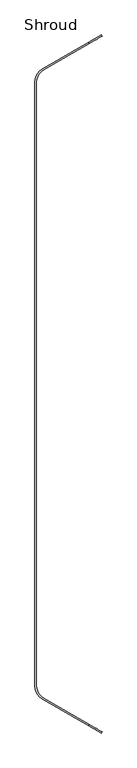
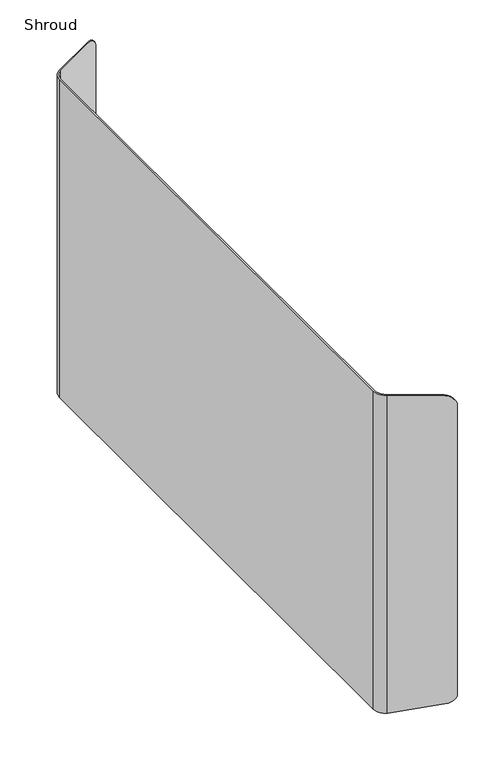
"""IFC4 building model written with IfcOpenShell, lengths in millimetres: furniture geometry, Steelcase Turnstone - Bivi - Accessories - Media Support System - Shroud : Shroud."""

from ifc_helpers import new_model, si_unit, frame, origin, place, context, project, spatial, polyline, circle_curve, ellipse_curve, source, transform, mapped, element, save
from ifc_brep_helpers import plane_surface, cylinder_surface, revolved_surface, advanced_brep


def shroud_0d320042(model_context):
    return source(origin(), model_context, "Body", "AdvancedBrep", [
        advanced_brep(
        [(12.7801827, 755.3019086, 1878.4279785), (0.0801827, 733.3048634, 1878.4279785), (0.0801827, -266.7068542, 1878.4279785), (12.7801827, -288.7038994, 1878.4279785), (89.1428456, -332.7919034, 1878.4279785), (89.1428456, -330.1525198, 1878.4279785), (14.443746, -287.0249745, 1878.4279785), (2.3471949, -266.0731334, 1878.4279785), (2.3471949, 732.6711427, 1878.4279785), (14.443746, 753.6229837, 1878.4279785), (89.1428456, 796.750529, 1878.4279785), (89.1428456, 799.3899126, 1878.4279785), (14.443746, 753.6229837, 1259.4279709), (2.3471949, 732.6711427, 1259.4279709), (2.3471949, -266.0731334, 1259.4279709), (14.443746, -287.0249745, 1259.4279709), (14.443746, -289.6643582, 1259.4279709), (12.7801827, -288.7038994, 1259.4279709), (0.0801827, -266.7068542, 1259.4279709), (0.0801827, 733.3048634, 1259.4279709), (12.7801827, 755.3019086, 1259.4279709), (14.443746, 756.2623674, 1259.4279709), (93.0215433, 798.9898961, 1277.5690848), (111.2120616, 809.4921968, 1297.5641356), (111.2120616, 809.4921968, 1303.8340351), (111.2120616, 809.4921968, 1856.3587625), (110.0691749, 811.4717345, 1292.8056002), (110.0691749, 811.4717345, 1863.3686865), (93.0215433, 801.6292798, 1277.5690848), (93.0215433, -335.0312706, 1277.5690848), (110.0691749, -344.8737253, 1292.8056002), (110.0691749, -344.8737253, 1863.3686865), (111.2120616, -342.8941876, 1297.5641356), (111.2120616, -342.8941876, 1303.8340351), (111.2120616, -342.8941876, 1856.3587625), (93.0215433, -332.3918869, 1277.5690848)],
        [
            (0, 1, circle_curve(frame((25.4801827, 733.3048634, 1878.4279785), z_axis=(0.0, 0.0, 1.0), x_axis=(1.0, 0.0, 0.0)), 25.4)),
            (1, 2),
            (2, 3, circle_curve(frame((25.4801827, -266.7068542, 1878.4279785), z_axis=(0.0, 0.0, 1.0), x_axis=(1.0, 0.0, 0.0)), 25.4)),
            (3, 4),
            (4, 5),
            (5, 6),
            (6, 7, circle_curve(frame((26.5402971, -266.0731334, 1878.4279785), z_axis=(0.0, 0.0, -1.0), x_axis=(1.0, 0.0, 0.0)), 24.1931022)),
            (7, 8),
            (8, 9, circle_curve(frame((26.5402971, 732.6711427, 1878.4279785), z_axis=(0.0, 0.0, -1.0), x_axis=(1.0, 0.0, 0.0)), 24.1931022)),
            (9, 10),
            (10, 11),
            (11, 0),
            (12, 13, circle_curve(frame((26.5402971, 732.6711427, 1259.4279709), z_axis=(0.0, 0.0, 1.0), x_axis=(1.0, 0.0, 0.0)), 24.1931022)),
            (13, 14),
            (14, 15, circle_curve(frame((26.5402971, -266.0731334, 1259.4279709), z_axis=(0.0, 0.0, 1.0), x_axis=(1.0, 0.0, 0.0)), 24.1931022)),
            (15, 16),
            (16, 17),
            (17, 18, circle_curve(frame((25.4801827, -266.7068542, 1259.4279709), z_axis=(0.0, 0.0, -1.0), x_axis=(1.0, 0.0, 0.0)), 25.4)),
            (18, 19),
            (19, 20, circle_curve(frame((25.4801827, 733.3048634, 1259.4279709), z_axis=(0.0, 0.0, -1.0), x_axis=(1.0, 0.0, 0.0)), 25.4)),
            (20, 21),
            (21, 12),
            (9, 12),
            (12, 22),
            (22, 23, ellipse_curve(frame((87.6815619, 795.9068564, 1300.6990853), z_axis=(0.4999999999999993, -0.8660254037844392, 0.0), x_axis=(-0.8660254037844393, -0.499999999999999, 0.0)), 27.4107601, 23.7384146)),
            (23, 24),
            (24, 25),
            (25, 10, ellipse_curve(frame((89.1428456, 796.750529, 1856.3587625), z_axis=(0.4999999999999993, -0.8660254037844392, 0.0), x_axis=(-0.8660254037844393, -0.499999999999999, 0.0)), 25.4833356, 22.069216)),
            (23, 26, ellipse_curve(frame((87.6815619, 850.2482178, 1300.6990853), z_axis=(0.8660254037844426, 0.4999999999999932, 0.0), x_axis=(0.4999999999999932, -0.8660254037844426, 0.0)), 47.4768291, 23.7384146)),
            (26, 27),
            (27, 25, ellipse_curve(frame((89.1428456, 847.7172001, 1856.3587625), z_axis=(0.8660254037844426, 0.4999999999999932, 0.0), x_axis=(0.4999999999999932, -0.8660254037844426, 0.0)), 44.138432, 22.069216)),
            (20, 0),
            (11, 27, ellipse_curve(frame((89.1428456, 799.3899126, 1856.3587625), z_axis=(-0.4999999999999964, 0.8660254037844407, 0.0), x_axis=(-0.8660254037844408, -0.49999999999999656, 0.0)), 25.4833356, 22.069216)),
            (26, 28, ellipse_curve(frame((87.6815619, 798.5462401, 1300.6990853), z_axis=(-0.4999999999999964, 0.8660254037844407, 0.0), x_axis=(-0.8660254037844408, -0.49999999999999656, 0.0)), 27.4107601, 23.7384146)),
            (28, 21),
            (19, 1),
            (18, 2),
            (17, 3),
            (16, 29),
            (29, 30, ellipse_curve(frame((87.6815619, -331.9482309, 1300.6990853), z_axis=(-0.4999999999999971, -0.8660254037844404, 0.0), x_axis=(0.8660254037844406, -0.499999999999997, 0.0)), 27.4107601, 23.7384146)),
            (30, 31),
            (31, 4, ellipse_curve(frame((89.1428456, -332.7919034, 1856.3587625), z_axis=(-0.4999999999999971, -0.8660254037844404, 0.0), x_axis=(0.8660254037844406, -0.499999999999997, 0.0)), 25.4833356, 22.069216)),
            (30, 32, ellipse_curve(frame((87.6815619, -383.6502086, 1300.6990853), z_axis=(0.8660254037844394, -0.4999999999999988, 0.0), x_axis=(-0.4999999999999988, -0.8660254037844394, 0.0)), 47.4768291, 23.7384146)),
            (32, 33),
            (33, 34),
            (34, 31, ellipse_curve(frame((89.1428456, -381.1191909, 1856.3587625), z_axis=(0.8660254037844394, -0.4999999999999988, 0.0), x_axis=(-0.4999999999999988, -0.8660254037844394, 0.0)), 44.138432, 22.069216)),
            (15, 6),
            (5, 34, ellipse_curve(frame((89.1428456, -330.1525198, 1856.3587625), z_axis=(0.49999999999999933, 0.866025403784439, 0.0), x_axis=(0.866025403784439, -0.49999999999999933, 0.0)), 25.4833356, 22.069216)),
            (32, 35, ellipse_curve(frame((87.6815619, -329.3088472, 1300.6990853), z_axis=(0.49999999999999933, 0.866025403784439, 0.0), x_axis=(0.866025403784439, -0.49999999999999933, 0.0)), 27.4107601, 23.7384146)),
            (35, 15),
            (14, 7),
            (13, 8),
            (22, 28),
            (29, 35),
        ],
        [
            plane_surface(frame((111.2120616, 809.4921968, 1878.4279785), z_axis=(0.0, 0.0, 1.0000000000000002), x_axis=(0.8660254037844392, 0.4999999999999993, 0.0))),
            plane_surface(frame((111.2120616, 809.4921968, 1259.4279709), z_axis=(0.0, 0.0, -1.0000000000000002), x_axis=(-0.8660254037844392, -0.4999999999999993, 0.0))),
            plane_surface(frame((14.443746, 753.6229837, 1878.4279785), z_axis=(0.4999999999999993, -0.8660254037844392, 0.0), x_axis=(0.0, 0.0, -1.0))),
            plane_surface(frame((111.2120616, 809.4921968, 1878.4279785), z_axis=(0.8660254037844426, 0.4999999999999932, 0.0), x_axis=(0.0, 0.0, -1.0))),
            plane_surface(frame((110.0691749, 811.4717345, 1878.4279785), z_axis=(-0.4999999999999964, 0.8660254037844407, 0.0), x_axis=(0.0, 0.0, -1.0))),
            cylinder_surface(frame((25.4801827, 733.3048634, 1259.4279709), z_axis=(0.0, 0.0, 1.0), x_axis=(1.0, 0.0, 0.0)), 25.4),
            plane_surface(frame((0.0801827, 733.3048634, 1878.4279785), z_axis=(-1.0, 0.0, 0.0), x_axis=(0.0, 0.0, -1.0))),
            cylinder_surface(frame((25.4801827, -266.7068542, 1259.4279709), z_axis=(0.0, 0.0, 1.0), x_axis=(1.0, 0.0, 0.0)), 25.4),
            plane_surface(frame((12.7801827, -288.7038994, 1878.4279785), z_axis=(-0.4999999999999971, -0.8660254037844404, 0.0), x_axis=(0.0, 0.0, -1.0))),
            plane_surface(frame((110.0691749, -344.8737253, 1878.4279785), z_axis=(0.8660254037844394, -0.4999999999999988, 0.0), x_axis=(0.0, 0.0, -1.0))),
            plane_surface(frame((111.2120616, -342.8941876, 1878.4279785), z_axis=(0.49999999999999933, 0.866025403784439, 0.0), x_axis=(0.0, 0.0, -1.0))),
            revolved_surface(polyline([(50.7333993, -266.0731334, 1259.4279709), (50.7333993, -266.0731334, 1878.4279785)]), (26.5402971, -266.0731334, 1259.4279709), (0.0, 0.0, -1.0)),
            plane_surface(frame((2.3471949, -266.0731334, 1878.4279785), z_axis=(1.0, 0.0, 0.0), x_axis=(0.0, 0.0, -1.0))),
            revolved_surface(polyline([(50.7333993, 732.6711427, 1259.4279709), (50.7333993, 732.6711427, 1878.4279785)]), (26.5402971, 732.6711427, 1259.4279709), (0.0, 0.0, -1.0)),
            cylinder_surface(frame((89.1428456, -981.3877882, 1856.3587625), z_axis=(0.0, -1.0, 0.0), x_axis=(1.0, 0.0, 0.0)), 22.069216),
            cylinder_surface(frame((87.6815619, 233.2990046, 1300.6990853), z_axis=(0.0, -1.0, 0.0), x_axis=(1.0, 0.0, 0.0)), 23.7384146),
            plane_surface(frame((14.443746, 1259.3511224, 1259.4279709), z_axis=(0.2249510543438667, 0.0, -0.9743700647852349), x_axis=(0.0, -1.0, 0.0))),
        ],
        [
            (0, [[1, 2, 3, 4, 5, 6, 7, 8, 9, 10, 11, 12]]),
            (1, [[13, 14, 15, 16, 17, 18, 19, 20, 21, 22]]),
            (2, [[23, 24, 25, 26, 27, 28, -10]]),
            (3, [[-27, -26, 29, 30, 31]]),
            (4, [[32, -12, 33, -30, 34, 35, -21]]),
            (5, [[-1, -32, -20, 36]]),
            (6, [[-2, -36, -19, 37]]),
            (7, [[-3, -37, -18, 38]]),
            (8, [[-38, -17, 39, 40, 41, 42, -4]]),
            (9, [[-41, 43, 44, 45, 46]]),
            (10, [[47, -6, 48, -45, -44, 49, 50]]),
            (11, [[-7, -47, -15, 51]]),
            (12, [[-8, -51, -14, 52]]),
            (13, [[-9, -52, -13, -23]]),
            (14, [[-5, -42, -46, -48]]),
            (14, [[-11, -28, -31, -33]]),
            (15, [[53, -34, -29, -25]]),
            (15, [[54, -49, -43, -40]]),
            (16, [[-53, -24, -22, -35]]),
            (16, [[-54, -39, -16, -50]]),
        ],
    ),
    ])


if __name__ == "__main__":
    model = new_model("IFC4")
    model_context = context("Model", 3, world=origin())
    ifc_project = project(units=[si_unit("LENGTHUNIT", "METRE", prefix="MILLI")], contexts=[model_context])
    site = spatial("IfcSite", under=ifc_project)
    building = spatial("IfcBuilding", under=site)
    placement = place(None, origin())
    shroud_shape = shroud_0d320042(model_context)
    element("IfcFurniture", 1, ObjectType="Steelcase Turnstone - Bivi - Accessories - Media Support System - Shroud : Shroud", at=placement, inside=building, context=model_context, shape_type="MappedRepresentation", body=[
        mapped(shroud_shape, transform((0.0, 0.0, 0.0), x_axis=(1.0, 0.0, 0.0), y_axis=(0.0, 1.0, 0.0), z_axis=(0.0, 0.0, 1.0))),
    ])
    save(model, "model.ifc")
